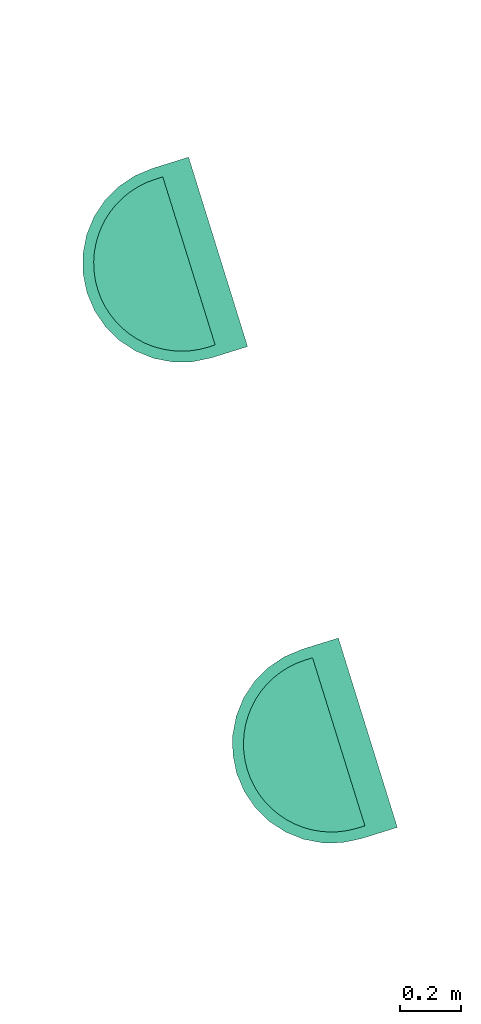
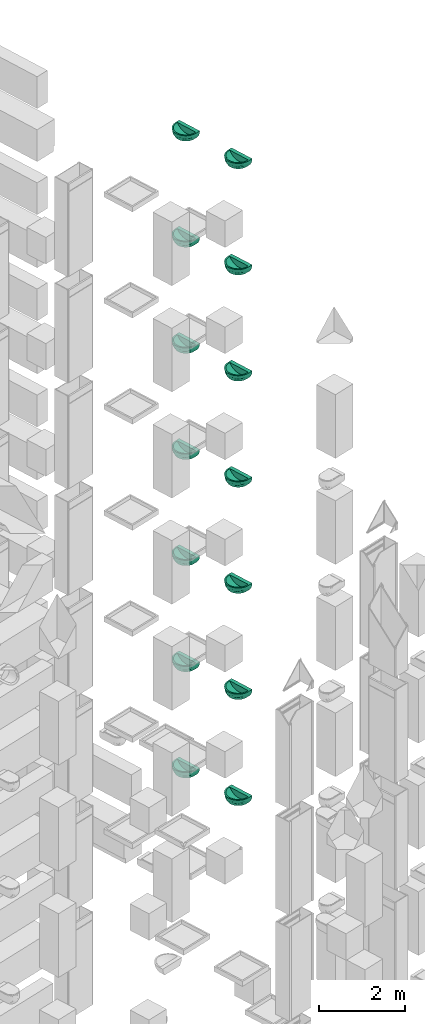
# Not in any storey, part 15 of 17: 14 sanitary terminals.
"""IFC4 model written with IfcOpenShell, lengths in metres."""

from ifc_helpers import new_model, entity, si_unit, converted_unit, direction, frame, origin, place, context, subcontext, project, polygons, source, transform, mapped, material, type_object, type_shapes, element, save


model = new_model("IFC4")

# Units and contexts
model_context = context("Model", 3, precision=1e-05, world=origin(), true_north=direction((6.12323399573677e-17, 1.0)))
body_context = subcontext(model_context, "Body", "Model", "MODEL_VIEW")
ifc_project = project(units=[si_unit("LENGTHUNIT", "METRE"), si_unit("AREAUNIT", "SQUARE_METRE"), converted_unit("PLANEANGLEUNIT", "DEGREE", entity("IfcPlaneAngleMeasure", 0.0174532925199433), si_unit("PLANEANGLEUNIT", "RADIAN"), dimensions=[0, 0, 0, 0, 0, 0, 0]), si_unit("VOLUMEUNIT", "CUBIC_METRE")], contexts=[model_context])

# Sanitary terminals
ifc_material = material(Name="<Unnamed>")
sanitary_terminal_type = type_object("IfcSanitaryTerminalType", Name="NLRS_74_PF_WB_wastafel_gen:wastafel", PredefinedType="SINK", material=ifc_material)
shared_shape = source(origin(), body_context, "Body", "Tessellation", [
    polygons([(-0.303081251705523, -0.175000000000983, -6.7), (-0.296836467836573, -0.238404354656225, -6.7), (-0.278342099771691, -0.299372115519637, -6.7), (-0.248308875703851, -0.355560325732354, -6.7), (-0.207890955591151, -0.404809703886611, -6.7), (-0.158641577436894, -0.44522762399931, -6.7), (-0.102453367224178, -0.475260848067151, -6.7), (-0.0414856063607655, -0.493755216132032, -6.7), (0.021918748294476, -0.500000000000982, -6.7), (0.021918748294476, -0.463314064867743, -6.7), (-0.00821701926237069, -0.461734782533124, -6.7), (-0.038024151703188, -0.457013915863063, -6.7), (-0.0671705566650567, -0.449204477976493, -6.7), (-0.0953421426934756, -0.438391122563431, -6.7), (-0.122231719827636, -0.424691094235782, -6.7), (-0.147543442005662, -0.408254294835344, -6.7), (-0.170998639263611, -0.389261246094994, -6.7), (-0.192339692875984, -0.367920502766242, -6.7), (-0.21133265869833, -0.344466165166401, -6.7), (-0.227769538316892, -0.319155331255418, -6.7), (-0.241470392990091, -0.292265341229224, -6.7), (-0.252285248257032, -0.264090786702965, -6.7), (-0.260095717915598, -0.234940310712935, -6.7), (-0.264816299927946, -0.205133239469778, -6.7), (-0.266395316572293, -0.175000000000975, -6.7), (-0.266395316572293, -0.150000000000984, -6.7), (0.021918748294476, -0.150000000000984, -6.7), (0.021918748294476, -0.0499999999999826, -6.7), (-0.303081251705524, -0.0499999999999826, -6.7), (0.346918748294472, -0.175000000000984, -6.7), (0.346918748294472, -0.0499999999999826, -6.7), (0.310232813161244, -0.150000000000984, -6.7), (0.310232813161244, -0.175000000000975, -6.7), (0.308653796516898, -0.205133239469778, -6.7), (0.303933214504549, -0.234940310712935, -6.7), (0.296122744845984, -0.264090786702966, -6.7), (0.285307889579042, -0.292265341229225, -6.7), (0.271607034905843, -0.319155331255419, -6.7), (0.255170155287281, -0.344466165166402, -6.7), (0.236177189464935, -0.367920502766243, -6.7), (0.214836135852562, -0.389261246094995, -6.7), (0.191380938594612, -0.408254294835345, -6.7), (0.166069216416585, -0.424691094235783, -6.7), (0.139179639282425, -0.438391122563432, -6.7), (0.111008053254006, -0.449204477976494, -6.7), (0.0818616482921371, -0.457013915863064, -6.7), (0.0520545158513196, -0.461734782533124, -6.7), (0.0853231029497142, -0.493755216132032, -6.7), (0.146290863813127, -0.475260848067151, -6.7), (0.202479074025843, -0.44522762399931, -6.7), (0.2517284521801, -0.404809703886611, -6.7), (0.292146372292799, -0.355560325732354, -6.7), (0.32217959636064, -0.299372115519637, -6.7), (0.340673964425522, -0.238404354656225, -6.7), (-0.296836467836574, -0.0499999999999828, -6.76340435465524), (-0.278342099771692, -0.049999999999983, -6.82437211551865), (-0.248308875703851, -0.0499999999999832, -6.88056032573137), (-0.207890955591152, -0.0499999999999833, -6.92980970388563), (-0.158641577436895, -0.0499999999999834, -6.97022762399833), (-0.102453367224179, -0.0499999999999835, -7.00026084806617), (-0.0414856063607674, -0.0499999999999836, -7.01875521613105), (0.0219187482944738, -0.0499999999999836, -7.025), (0.085323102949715, -0.0499999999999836, -7.01875521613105), (0.146290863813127, -0.0499999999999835, -7.00026084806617), (0.202479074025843, -0.0499999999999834, -6.97022762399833), (0.2517284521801, -0.0499999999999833, -6.92980970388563), (0.292146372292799, -0.0499999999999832, -6.88056032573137), (0.32217959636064, -0.049999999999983, -6.82437211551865), (0.340673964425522, -0.0499999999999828, -6.76340435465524), (0.34246627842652, -0.175000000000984, -6.75361232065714), (0.329230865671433, -0.175000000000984, -6.8057556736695), (0.307575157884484, -0.175000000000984, -6.85500134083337), (0.278092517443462, -0.175000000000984, -6.9), (0.278092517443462, -0.0749999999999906, -6.9), (0.237763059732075, -0.0749999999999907, -6.94297372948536), (0.190336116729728, -0.0749999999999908, -6.97795789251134), (0.137371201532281, -0.0749999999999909, -7.00380212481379), (0.0806099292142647, -0.074999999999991, -7.01965660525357), (0.0219187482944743, -0.074999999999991, -7.025), (-0.0367724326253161, -0.074999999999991, -7.01965660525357), (-0.0935337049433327, -0.0749999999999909, -7.00380212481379), (-0.146498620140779, -0.0749999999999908, -6.97795789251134), (-0.193925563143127, -0.0749999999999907, -6.94297372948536), (-0.234255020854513, -0.0749999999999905, -6.9), (-0.234255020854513, -0.175000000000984, -6.9), (-0.263737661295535, -0.175000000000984, -6.85500134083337), (-0.285393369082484, -0.175000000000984, -6.8057556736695), (-0.298628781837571, -0.175000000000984, -6.75361232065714), (-0.228099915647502, -0.0499999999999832, -6.9051850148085), (-0.183266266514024, -0.0499999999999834, -6.95001866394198), (-0.130547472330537, -0.0499999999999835, -6.98524423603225), (-0.0719694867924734, -0.0499999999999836, -7.00950803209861), (0.115806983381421, -0.0499999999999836, -7.00950803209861), (0.174384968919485, -0.0499999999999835, -6.98524423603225), (0.227103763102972, -0.0499999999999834, -6.95001866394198), (0.27193741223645, -0.0499999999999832, -6.9051850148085), (0.257927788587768, -0.0749999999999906, -6.92148686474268), (0.214049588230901, -0.0749999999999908, -6.96046581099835), (-0.170212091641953, -0.0749999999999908, -6.96046581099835), (-0.21409029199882, -0.0749999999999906, -6.92148686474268), (-0.120016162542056, -0.0749999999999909, -6.99088000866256), (-0.0651530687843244, -0.0749999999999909, -7.01172936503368), (0.108990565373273, -0.0749999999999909, -7.01172936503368), (0.163853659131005, -0.0749999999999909, -6.99088000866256), (-0.232753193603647, -0.202698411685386, -6.9), (-0.228265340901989, -0.230071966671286, -6.9), (-0.220844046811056, -0.256799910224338, -6.9), (-0.210576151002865, -0.282569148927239, -6.9), (-0.197581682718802, -0.307077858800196, -6.9), (-0.182012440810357, -0.33003893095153, -6.9), (-0.164050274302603, -0.351183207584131, -6.9), (-0.1439051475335, -0.370262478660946, -6.9), (-0.121813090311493, -0.387052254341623, -6.9), (-0.0980340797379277, -0.401354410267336, -6.9), (-0.0728496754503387, -0.412999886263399, -6.9), (-0.0465597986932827, -0.421851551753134, -6.9), (-0.0194777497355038, -0.427806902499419, -6.9), (0.00807674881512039, -0.43079952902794, -6.9), (0.0357845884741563, -0.430798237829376, -6.9), (0.0633306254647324, -0.427804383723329, -6.9), (0.0904016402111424, -0.421850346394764, -6.9), (0.116683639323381, -0.413001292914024, -6.9), (0.141864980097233, -0.401357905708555, -6.9), (0.165644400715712, -0.38705644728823, -6.9), (0.18773840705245, -0.370266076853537, -6.9), (0.207885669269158, -0.351185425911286, -6.9), (0.225849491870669, -0.330039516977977, -6.9), (0.24141970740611, -0.307076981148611, -6.9), (0.254414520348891, -0.282567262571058, -6.9), (0.264682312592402, -0.256797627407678, -6.9), (0.272103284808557, -0.230069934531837, -6.9), (0.27659082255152, -0.202697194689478, -6.9), (-0.257045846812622, -0.297316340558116, -6.81332461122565), (0.300884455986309, -0.297313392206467, -6.81332505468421), (-0.00978342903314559, -0.496877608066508, -6.7), (-0.205655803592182, -0.378737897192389, -6.81102113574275), (0.249493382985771, -0.378737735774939, -6.81102126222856), (0.0536209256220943, -0.496877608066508, -6.7), (0.0219337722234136, -0.481913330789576, -6.80690747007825), (-0.0719694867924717, -0.484508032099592, -6.7), (0.11580698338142, -0.484508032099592, -6.7), (-0.0425022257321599, -0.471258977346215, -6.81707073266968), (-0.165040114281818, -0.416191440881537, -6.81179477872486), (0.20887408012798, -0.416198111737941, -6.81178629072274), (0.0863501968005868, -0.471256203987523, -6.8170719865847), (-0.23446246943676, -0.305265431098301, -6.85140868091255), (0.278301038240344, -0.305263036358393, -6.85140892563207), (-0.120243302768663, -0.443687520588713, -6.81498681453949), (0.164074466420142, -0.443691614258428, -6.81498507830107), (-0.233336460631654, -0.358005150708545, -6.78353976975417), (0.277175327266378, -0.358003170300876, -6.78353992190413), (-0.290060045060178, -0.240925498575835, -6.76283359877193), (0.333897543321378, -0.240925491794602, -6.76283359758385), (-0.275008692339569, -0.237028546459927, -6.81666856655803), (-0.254394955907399, -0.239447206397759, -6.85850014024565), (-0.272362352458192, -0.296908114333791, -6.76451391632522), (0.31884634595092, -0.237026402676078, -6.81666930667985), (0.298232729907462, -0.239444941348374, -6.85850057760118), (0.316201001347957, -0.296905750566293, -6.76451312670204), (-0.0755829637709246, -0.474402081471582, -6.78047862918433), (-0.0690330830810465, -0.449635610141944, -6.84808121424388), (0.119420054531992, -0.474406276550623, -6.7804635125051), (0.112885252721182, -0.449636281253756, -6.84807095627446), (-0.228099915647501, -0.380185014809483, -6.7), (0.27193741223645, -0.380185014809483, -6.7), (-0.183266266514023, -0.425018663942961, -6.7), (0.227103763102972, -0.425018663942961, -6.7), (-0.130547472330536, -0.460244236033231, -6.7), (0.174384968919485, -0.460244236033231, -6.7), (0.278352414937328, -0.175000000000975, -6.74966665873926), (0.238015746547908, -0.175000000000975, -6.79274902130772), (0.190552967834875, -0.175000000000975, -6.82782638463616), (0.137529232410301, -0.175000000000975, -6.85374202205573), (0.0806930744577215, -0.175000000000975, -6.86964132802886), (0.0219187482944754, -0.175000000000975, -6.875), (-0.0368555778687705, -0.175000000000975, -6.86964132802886), (-0.0936917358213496, -0.175000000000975, -6.85374202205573), (-0.146715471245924, -0.175000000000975, -6.82782638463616), (-0.194178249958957, -0.175000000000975, -6.79274902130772), (-0.234514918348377, -0.175000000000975, -6.74966665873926), (-0.119627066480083, -0.322173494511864, -6.80284332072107), (0.163464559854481, -0.32217349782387, -6.8028433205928), (-0.200517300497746, -0.262511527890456, -6.77020203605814), (0.244354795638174, -0.262511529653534, -6.77020203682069), (-0.162633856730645, -0.347041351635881, -6.75485875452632), (0.206471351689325, -0.347041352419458, -6.75485875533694), (0.00220012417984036, -0.367185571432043, -6.81134437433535), (-0.0912046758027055, -0.393814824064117, -6.76200981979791), (0.135042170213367, -0.393814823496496, -6.76200982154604), (0.0498196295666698, -0.280825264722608, -6.85601887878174), (-0.0620730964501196, -0.266760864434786, -6.85025041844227), (0.160889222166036, -0.248929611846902, -6.83433540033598), (0.0405814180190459, -0.417340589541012, -6.76574926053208), (0.0863370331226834, -0.354389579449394, -6.81323879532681), (-0.00909478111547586, -0.420066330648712, -6.76120050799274), (-0.0478694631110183, -0.381606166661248, -6.79097405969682), (-0.0422183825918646, -0.327597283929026, -6.82968821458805), (-0.0074080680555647, -0.286981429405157, -6.8536858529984), (-0.00719351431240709, -0.22811728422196, -6.869305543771), (-0.0504034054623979, -0.422275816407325, -6.7481140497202), (0.115439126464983, -0.298042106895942, -6.83590134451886), (0.101584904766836, -0.237319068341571, -6.85886022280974), (-0.144773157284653, -0.251326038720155, -6.81835264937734), (0.0860600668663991, -0.418745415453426, -6.75518056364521), (0.278341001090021, -0.150000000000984, -6.74968131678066), (0.238003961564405, -0.150000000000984, -6.79275951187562), (0.19054233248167, -0.150000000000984, -6.82783283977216), (0.137520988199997, -0.150000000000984, -6.85374515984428), (0.080687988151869, -0.150000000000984, -6.86964226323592), (0.021917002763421, -0.150000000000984, -6.87499999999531), (-0.0368543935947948, -0.150000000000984, -6.869641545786), (-0.0936885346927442, -0.150000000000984, -6.85374324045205), (-0.146711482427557, -0.150000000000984, -6.8278288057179), (-0.19417475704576, -0.150000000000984, -6.79275213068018), (-0.234512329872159, -0.150000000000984, -6.74966998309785)], [[[9, 138, 48, 141, 49, 169, 50, 167, 51, 165, 52, 53, 54, 30, 31, 28, 29, 1, 2, 3, 4, 164, 5, 166, 6, 168, 7, 140, 8, 135], [10, 11, 12, 13, 14, 15, 16, 17, 18, 19, 20, 21, 22, 23, 24, 25, 26, 27, 32, 33, 34, 35, 36, 37, 38, 39, 40, 41, 42, 43, 44, 45, 46, 47]], [[1, 29, 88]], [[87, 88, 55]], [[56, 86, 87]], [[58, 100, 89]], [[93, 103, 63]], [[91, 60, 101]], [[97, 75, 66]], [[61, 102, 92]], [[61, 62, 80]], [[84, 85, 86]], [[94, 65, 76]], [[89, 84, 57]], [[86, 56, 57]], [[88, 29, 55]], [[55, 56, 87]], [[86, 57, 84]], [[82, 59, 91]], [[92, 81, 60]], [[58, 90, 83]], [[59, 82, 99]], [[93, 64, 77]], [[59, 99, 90]], [[84, 89, 100]], [[100, 58, 83]], [[81, 101, 60]], [[62, 79, 80]], [[103, 93, 77]], [[98, 76, 65]], [[98, 95, 75]], [[95, 66, 75]], [[101, 82, 91]], [[104, 94, 76]], [[69, 70, 71]], [[72, 73, 74]], [[71, 72, 68]], [[80, 102, 61]], [[78, 79, 62]], [[30, 70, 31]], [[83, 90, 99]], [[78, 63, 103]], [[104, 77, 64]], [[65, 95, 98]], [[102, 81, 92]], [[62, 63, 78]], [[96, 67, 74]], [[97, 66, 96]], [[67, 72, 74]], [[72, 67, 68]], [[68, 69, 71]], [[69, 31, 70]], [[97, 96, 74]], [[94, 104, 64]], [[28, 31, 69, 68, 67, 96, 66, 95, 65, 94, 64, 93, 63, 62, 61, 92, 60, 91, 59, 90, 58, 89, 57, 56, 55, 29]], [[6, 136, 143]], [[52, 159, 53]], [[158, 157, 134]], [[111, 112, 143]], [[136, 150, 146]], [[143, 110, 111]], [[129, 147, 128]], [[110, 143, 136]], [[148, 143, 112]], [[159, 157, 153]], [[161, 115, 116]], [[139, 135, 142]], [[53, 159, 153]], [[142, 117, 118]], [[143, 148, 7]], [[8, 160, 142]], [[134, 151, 147]], [[148, 161, 160]], [[114, 148, 113]], [[7, 148, 140]], [[8, 140, 160]], [[130, 131, 158]], [[136, 146, 109]], [[152, 3, 2]], [[160, 140, 148]], [[87, 152, 88]], [[154, 133, 156]], [[1, 88, 2]], [[2, 88, 152]], [[165, 51, 151]], [[147, 151, 137]], [[4, 3, 156]], [[142, 161, 116]], [[139, 142, 118]], [[107, 155, 106]], [[146, 107, 108]], [[124, 125, 149]], [[166, 5, 150]], [[155, 86, 85]], [[118, 119, 139]], [[86, 154, 87]], [[154, 86, 155]], [[148, 114, 161]], [[139, 145, 138]], [[107, 146, 155]], [[136, 109, 110]], [[150, 164, 133]], [[85, 105, 155]], [[142, 160, 161]], [[48, 138, 145]], [[158, 73, 72]], [[146, 108, 109]], [[9, 135, 139]], [[9, 139, 138]], [[119, 145, 139]], [[8, 142, 135]], [[120, 121, 145]], [[124, 149, 123]], [[49, 141, 149]], [[137, 50, 144]], [[156, 152, 154]], [[133, 155, 146]], [[137, 144, 127]], [[112, 113, 148]], [[162, 145, 163]], [[134, 165, 151]], [[149, 125, 144]], [[127, 128, 137]], [[120, 145, 119]], [[155, 133, 154]], [[48, 145, 162]], [[152, 156, 3]], [[133, 146, 150]], [[168, 6, 143, 7]], [[144, 125, 126]], [[144, 126, 127]], [[163, 145, 121]], [[151, 167, 137]], [[147, 137, 128]], [[142, 116, 117]], [[157, 158, 72]], [[158, 147, 130]], [[141, 48, 162]], [[158, 134, 147]], [[147, 129, 130]], [[72, 71, 157]], [[158, 132, 73]], [[87, 154, 152]], [[70, 54, 153]], [[163, 122, 123]], [[167, 50, 137]], [[133, 164, 156]], [[54, 70, 30]], [[71, 70, 153]], [[136, 166, 150]], [[159, 134, 157]], [[158, 131, 132]], [[53, 153, 54]], [[169, 49, 144, 50]], [[105, 106, 155]], [[150, 5, 164]], [[165, 134, 159]], [[71, 153, 157]], [[114, 115, 161]], [[162, 149, 141]], [[163, 123, 149]], [[162, 163, 149]], [[122, 163, 121]], [[4, 156, 164]], [[159, 52, 165]], [[166, 136, 6]], [[167, 151, 51]], [[149, 144, 49]], [[185, 16, 15]], [[198, 187, 190]], [[185, 18, 17]], [[190, 202, 199]], [[187, 198, 197]], [[20, 185, 183]], [[15, 14, 188]], [[181, 197, 191]], [[193, 195, 10]], [[204, 194, 193]], [[177, 203, 191]], [[196, 187, 197]], [[196, 200, 195]], [[10, 195, 11]], [[185, 15, 188]], [[187, 196, 195]], [[200, 196, 188]], [[191, 197, 198]], [[22, 183, 23]], [[13, 200, 188]], [[180, 24, 23]], [[190, 194, 201]], [[202, 201, 192]], [[25, 24, 180]], [[183, 22, 21]], [[200, 12, 11]], [[179, 183, 203]], [[178, 203, 177]], [[201, 202, 190]], [[180, 183, 179]], [[23, 183, 180]], [[19, 18, 185]], [[20, 183, 21]], [[172, 184, 171]], [[13, 188, 14]], [[185, 20, 19]], [[190, 199, 198]], [[16, 185, 17]], [[181, 188, 196]], [[191, 199, 176]], [[193, 187, 195]], [[194, 189, 182]], [[189, 43, 186]], [[184, 192, 182]], [[173, 174, 202]], [[45, 44, 189]], [[204, 47, 46]], [[186, 43, 42]], [[186, 41, 40]], [[181, 196, 197]], [[38, 184, 186]], [[187, 193, 194]], [[45, 189, 204]], [[39, 38, 186]], [[182, 201, 194]], [[186, 42, 41]], [[199, 175, 176]], [[184, 38, 37]], [[189, 44, 43]], [[177, 191, 176]], [[192, 184, 172]], [[172, 173, 192]], [[186, 184, 182]], [[203, 183, 181]], [[191, 198, 199]], [[185, 188, 181]], [[184, 170, 171]], [[11, 195, 200]], [[12, 200, 13]], [[184, 35, 170]], [[170, 34, 33]], [[34, 170, 35]], [[193, 10, 47]], [[186, 40, 39]], [[175, 199, 202]], [[36, 35, 184]], [[36, 184, 37]], [[183, 185, 181]], [[201, 182, 192]], [[204, 46, 45]], [[187, 194, 190]], [[189, 186, 182]], [[173, 202, 192]], [[202, 174, 175]], [[191, 203, 181]], [[179, 203, 178]], [[194, 204, 189]], [[47, 204, 193]], [[180, 26, 25]], [[179, 215, 180]], [[213, 178, 177]], [[179, 178, 214]], [[212, 177, 176]], [[215, 26, 180]], [[214, 215, 179]], [[210, 211, 176]], [[212, 213, 177]], [[211, 212, 176]], [[214, 178, 213]], [[176, 175, 210]], [[209, 175, 174]], [[173, 208, 174]], [[206, 172, 171]], [[173, 172, 207]], [[205, 171, 170]], [[209, 174, 208]], [[208, 173, 207]], [[171, 205, 206]], [[206, 207, 172]], [[205, 170, 32]], [[33, 32, 170]], [[175, 209, 210]], [[32, 27, 26, 215, 214, 213, 212, 211, 210, 209, 208, 207, 206, 205]], [[82, 101, 81, 102, 80, 79, 78, 103, 77, 104, 76, 98, 75, 97, 74, 84, 100, 83, 99]], [[73, 132, 131, 130, 129, 128, 127, 126, 125, 124, 123, 122, 121, 120, 119, 118, 117, 116, 115, 114, 113, 112, 111, 110, 109, 108, 107, 106, 105, 85, 84, 74]]], closed=True),
])
type_shapes(sanitary_terminal_type, [shared_shape])
placement_1 = place(None, frame((13.1347999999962, 11.9886000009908, 0.0), z_axis=(0.0, 0.0, 1.0), x_axis=(0.954770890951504, 0.297342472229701, 0.0)))
placement_2 = place(placement_1, origin())
placement_3 = place(placement_2, frame((0.0, 0.0, 6.9)))
placement_4 = place(placement_3, origin())
sanitary_terminal_1_placement = place(placement_4, frame((75.2749999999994, 22.9469187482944, 7.525), z_axis=(0.0, 0.0, 1.0), x_axis=(0.0, -1.0, 0.0)))
element("IfcSanitaryTerminal", 1, at=sanitary_terminal_1_placement, type_object=sanitary_terminal_type, material=ifc_material, Name="NLRS_74_PF_WB_wastafel_gen:wastafel", ObjectType="NLRS_74_PF_WB_wastafel_gen:wastafel", PredefinedType="SINK", context=body_context, shape_type="MappedRepresentation", body=[
    mapped(shared_shape, transform((0.0, 0.0, 0.0), scale=1.0)),
])
placement_5 = place(placement_2, frame((0.0, 0.0, 9.9)))
placement_6 = place(placement_5, origin())
sanitary_terminal_2_placement = place(placement_6, frame((75.2749999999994, 22.9469187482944, 7.525), z_axis=(0.0, 0.0, 1.0), x_axis=(0.0, -1.0, 0.0)))
element("IfcSanitaryTerminal", 2, at=sanitary_terminal_2_placement, type_object=sanitary_terminal_type, material=ifc_material, Name="NLRS_74_PF_WB_wastafel_gen:wastafel", ObjectType="NLRS_74_PF_WB_wastafel_gen:wastafel", PredefinedType="SINK", context=body_context, shape_type="MappedRepresentation", body=[
    mapped(shared_shape, transform((0.0, 0.0, 0.0), scale=1.0)),
])
placement_7 = place(placement_2, frame((0.0, 0.0, 12.9)))
placement_8 = place(placement_7, origin())
sanitary_terminal_3_placement = place(placement_8, frame((75.2749999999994, 22.9469187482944, 7.525), z_axis=(0.0, 0.0, 1.0), x_axis=(0.0, -1.0, 0.0)))
element("IfcSanitaryTerminal", 3, at=sanitary_terminal_3_placement, type_object=sanitary_terminal_type, material=ifc_material, Name="NLRS_74_PF_WB_wastafel_gen:wastafel", ObjectType="NLRS_74_PF_WB_wastafel_gen:wastafel", PredefinedType="SINK", context=body_context, shape_type="MappedRepresentation", body=[
    mapped(shared_shape, transform((0.0, 0.0, 0.0), scale=1.0)),
])
placement_9 = place(placement_2, frame((0.0, 0.0, 15.9)))
placement_10 = place(placement_9, origin())
sanitary_terminal_4_placement = place(placement_10, frame((75.2749999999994, 22.9469187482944, 7.525), z_axis=(0.0, 0.0, 1.0), x_axis=(0.0, -1.0, 0.0)))
element("IfcSanitaryTerminal", 4, at=sanitary_terminal_4_placement, type_object=sanitary_terminal_type, material=ifc_material, Name="NLRS_74_PF_WB_wastafel_gen:wastafel", ObjectType="NLRS_74_PF_WB_wastafel_gen:wastafel", PredefinedType="SINK", context=body_context, shape_type="MappedRepresentation", body=[
    mapped(shared_shape, transform((0.0, 0.0, 0.0), scale=1.0)),
])
placement_11 = place(placement_2, frame((0.0, 0.0, 18.9)))
placement_12 = place(placement_11, origin())
sanitary_terminal_5_placement = place(placement_12, frame((75.2749999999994, 22.9469187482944, 7.525), z_axis=(0.0, 0.0, 1.0), x_axis=(0.0, -1.0, 0.0)))
element("IfcSanitaryTerminal", 5, at=sanitary_terminal_5_placement, type_object=sanitary_terminal_type, material=ifc_material, Name="NLRS_74_PF_WB_wastafel_gen:wastafel", ObjectType="NLRS_74_PF_WB_wastafel_gen:wastafel", PredefinedType="SINK", context=body_context, shape_type="MappedRepresentation", body=[
    mapped(shared_shape, transform((0.0, 0.0, 0.0), scale=1.0)),
])
placement_13 = place(placement_2, frame((0.0, 0.0, 21.9)))
placement_14 = place(placement_13, origin())
sanitary_terminal_6_placement = place(placement_14, frame((75.2749999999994, 22.9469187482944, 7.525), z_axis=(0.0, 0.0, 1.0), x_axis=(0.0, -1.0, 0.0)))
element("IfcSanitaryTerminal", 6, at=sanitary_terminal_6_placement, type_object=sanitary_terminal_type, material=ifc_material, Name="NLRS_74_PF_WB_wastafel_gen:wastafel", ObjectType="NLRS_74_PF_WB_wastafel_gen:wastafel", PredefinedType="SINK", context=body_context, shape_type="MappedRepresentation", body=[
    mapped(shared_shape, transform((0.0, 0.0, 0.0), scale=1.0)),
])
placement_15 = place(placement_2, frame((0.0, 0.0, 24.9)))
placement_16 = place(placement_15, origin())
sanitary_terminal_7_placement = place(placement_16, frame((75.2749999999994, 22.9469187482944, 7.525), z_axis=(0.0, 0.0, 1.0), x_axis=(0.0, -1.0, 0.0)))
element("IfcSanitaryTerminal", 7, at=sanitary_terminal_7_placement, type_object=sanitary_terminal_type, material=ifc_material, Name="NLRS_74_PF_WB_wastafel_gen:wastafel", ObjectType="NLRS_74_PF_WB_wastafel_gen:wastafel", PredefinedType="SINK", context=body_context, shape_type="MappedRepresentation", body=[
    mapped(shared_shape, transform((0.0, 0.0, 0.0), scale=1.0)),
])
placement_17 = place(placement_3, origin())
sanitary_terminal_8_placement = place(placement_17, frame((75.2749999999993, 21.2969187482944, 7.525), z_axis=(0.0, 0.0, 1.0), x_axis=(0.0, -1.0, 0.0)))
element("IfcSanitaryTerminal", 8, at=sanitary_terminal_8_placement, type_object=sanitary_terminal_type, material=ifc_material, Name="NLRS_74_PF_WB_wastafel_gen:wastafel", ObjectType="NLRS_74_PF_WB_wastafel_gen:wastafel", PredefinedType="SINK", context=body_context, shape_type="MappedRepresentation", body=[
    mapped(shared_shape, transform((0.0, 0.0, 0.0), scale=1.0)),
])
placement_18 = place(placement_5, origin())
sanitary_terminal_9_placement = place(placement_18, frame((75.2749999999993, 21.2969187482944, 7.525), z_axis=(0.0, 0.0, 1.0), x_axis=(0.0, -1.0, 0.0)))
element("IfcSanitaryTerminal", 9, at=sanitary_terminal_9_placement, type_object=sanitary_terminal_type, material=ifc_material, Name="NLRS_74_PF_WB_wastafel_gen:wastafel", ObjectType="NLRS_74_PF_WB_wastafel_gen:wastafel", PredefinedType="SINK", context=body_context, shape_type="MappedRepresentation", body=[
    mapped(shared_shape, transform((0.0, 0.0, 0.0), scale=1.0)),
])
placement_19 = place(placement_7, origin())
sanitary_terminal_10_placement = place(placement_19, frame((75.2749999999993, 21.2969187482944, 7.525), z_axis=(0.0, 0.0, 1.0), x_axis=(0.0, -1.0, 0.0)))
element("IfcSanitaryTerminal", 10, at=sanitary_terminal_10_placement, type_object=sanitary_terminal_type, material=ifc_material, Name="NLRS_74_PF_WB_wastafel_gen:wastafel", ObjectType="NLRS_74_PF_WB_wastafel_gen:wastafel", PredefinedType="SINK", context=body_context, shape_type="MappedRepresentation", body=[
    mapped(shared_shape, transform((0.0, 0.0, 0.0), scale=1.0)),
])
placement_20 = place(placement_9, origin())
sanitary_terminal_11_placement = place(placement_20, frame((75.2749999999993, 21.2969187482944, 7.525), z_axis=(0.0, 0.0, 1.0), x_axis=(0.0, -1.0, 0.0)))
element("IfcSanitaryTerminal", 11, at=sanitary_terminal_11_placement, type_object=sanitary_terminal_type, material=ifc_material, Name="NLRS_74_PF_WB_wastafel_gen:wastafel", ObjectType="NLRS_74_PF_WB_wastafel_gen:wastafel", PredefinedType="SINK", context=body_context, shape_type="MappedRepresentation", body=[
    mapped(shared_shape, transform((0.0, 0.0, 0.0), scale=1.0)),
])
placement_21 = place(placement_11, origin())
sanitary_terminal_12_placement = place(placement_21, frame((75.2749999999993, 21.2969187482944, 7.525), z_axis=(0.0, 0.0, 1.0), x_axis=(0.0, -1.0, 0.0)))
element("IfcSanitaryTerminal", 12, at=sanitary_terminal_12_placement, type_object=sanitary_terminal_type, material=ifc_material, Name="NLRS_74_PF_WB_wastafel_gen:wastafel", ObjectType="NLRS_74_PF_WB_wastafel_gen:wastafel", PredefinedType="SINK", context=body_context, shape_type="MappedRepresentation", body=[
    mapped(shared_shape, transform((0.0, 0.0, 0.0), scale=1.0)),
])
placement_22 = place(placement_13, origin())
sanitary_terminal_13_placement = place(placement_22, frame((75.2749999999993, 21.2969187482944, 7.525), z_axis=(0.0, 0.0, 1.0), x_axis=(0.0, -1.0, 0.0)))
element("IfcSanitaryTerminal", 13, at=sanitary_terminal_13_placement, type_object=sanitary_terminal_type, material=ifc_material, Name="NLRS_74_PF_WB_wastafel_gen:wastafel", ObjectType="NLRS_74_PF_WB_wastafel_gen:wastafel", PredefinedType="SINK", context=body_context, shape_type="MappedRepresentation", body=[
    mapped(shared_shape, transform((0.0, 0.0, 0.0), scale=1.0)),
])
placement_23 = place(placement_15, origin())
sanitary_terminal_14_placement = place(placement_23, frame((75.2749999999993, 21.2969187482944, 7.525), z_axis=(0.0, 0.0, 1.0), x_axis=(0.0, -1.0, 0.0)))
element("IfcSanitaryTerminal", 14, at=sanitary_terminal_14_placement, type_object=sanitary_terminal_type, material=ifc_material, Name="NLRS_74_PF_WB_wastafel_gen:wastafel", ObjectType="NLRS_74_PF_WB_wastafel_gen:wastafel", PredefinedType="SINK", context=body_context, shape_type="MappedRepresentation", body=[
    mapped(shared_shape, transform((0.0, 0.0, 0.0), scale=1.0)),
])

save(model, "model.ifc")
